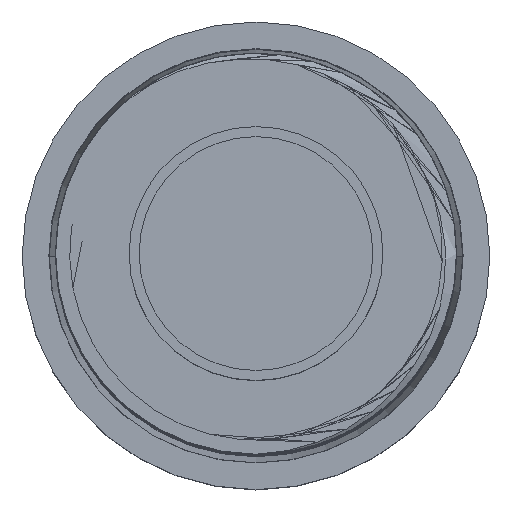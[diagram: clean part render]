
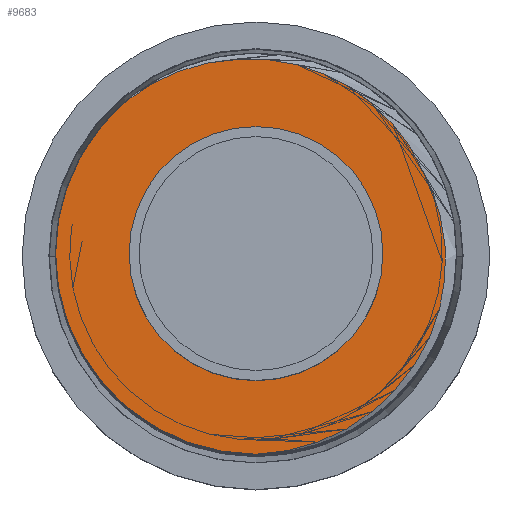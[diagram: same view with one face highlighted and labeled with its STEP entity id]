
A CAD part, top view. The second image highlights one B-rep face of the part: STEP entity #9683.
In plain terms, the highlighted planar face has unit normal (0, 0, 1).
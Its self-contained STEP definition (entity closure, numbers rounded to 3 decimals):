
#130=CARTESIAN_POINT('',(2.508,1.22,23.));
#131=CARTESIAN_POINT('',(2.421,1.419,23.));
#132=CARTESIAN_POINT('',(2.206,1.785,23.));
#133=CARTESIAN_POINT('',(1.763,2.258,23.));
#134=CARTESIAN_POINT('',(1.218,2.623,23.));
#135=CARTESIAN_POINT('',(0.608,2.856,23.));
#136=CARTESIAN_POINT('',(-0.056,2.944,23.));
#137=CARTESIAN_POINT('',(-0.716,2.882,23.));
#138=CARTESIAN_POINT('',(-1.356,2.673,23.));
#139=CARTESIAN_POINT('',(-1.747,2.438,23.));
#140=CARTESIAN_POINT('',(-1.933,2.294,23.));
#145=CARTESIAN_POINT('',(0.,0.,23.));
#146=DIRECTION('',(0.,0.,-1.));
#147=DIRECTION('',(0.,-1.,0.));
#148=AXIS2_PLACEMENT_3D('',#145,#146,#147);
#153=CARTESIAN_POINT('',(0.,0.,23.));
#154=DIRECTION('',(0.,0.,-1.));
#155=DIRECTION('',(-1.,0.,0.));
#156=AXIS2_PLACEMENT_3D('',#153,#154,#155);
#161=CARTESIAN_POINT('',(0.,0.,23.));
#162=DIRECTION('',(0.,0.,1.));
#163=DIRECTION('',(-1.,0.,0.));
#164=AXIS2_PLACEMENT_3D('',#161,#162,#163);
#169=CARTESIAN_POINT('',(0.,0.,23.));
#170=DIRECTION('',(0.,0.,1.));
#171=DIRECTION('',(1.,0.,0.));
#172=AXIS2_PLACEMENT_3D('',#169,#170,#171);
#177=CARTESIAN_POINT('',(0.,-3.,23.));
#178=CARTESIAN_POINT('',(0.226,-2.993,23.));
#179=CARTESIAN_POINT('',(0.661,-2.929,23.));
#180=CARTESIAN_POINT('',(1.28,-2.689,23.));
#181=CARTESIAN_POINT('',(1.824,-2.324,23.));
#182=CARTESIAN_POINT('',(2.288,-1.834,23.));
#183=CARTESIAN_POINT('',(2.621,-1.26,23.));
#184=CARTESIAN_POINT('',(2.813,-0.643,23.));
#185=CARTESIAN_POINT('',(2.861,0.014,23.));
#186=CARTESIAN_POINT('',(2.759,0.649,23.));
#187=CARTESIAN_POINT('',(2.607,1.035,23.));
#188=CARTESIAN_POINT('',(2.508,1.22,23.));
#5498=VERTEX_POINT('',#130);
#5499=VERTEX_POINT('',#140);
#5575=VERTEX_POINT('',#177);
#5576=CARTESIAN_POINT('',(-3.,0.,23.));
#5577=VERTEX_POINT('',#5576);
#5578=CARTESIAN_POINT('',(-1.9,0.,23.));
#5579=CARTESIAN_POINT('',(1.9,0.,23.));
#5580=VERTEX_POINT('',#5578);
#5581=VERTEX_POINT('',#5579);
#9663=CARTESIAN_POINT('',(0.,0.,23.));
#9664=DIRECTION('',(0.,0.,1.));
#9665=DIRECTION('',(1.,0.,0.));
#9666=AXIS2_PLACEMENT_3D('',#9663,#9664,#9665);
#9667=PLANE('',#9666);
#9669=ORIENTED_EDGE('',*,*,#9668,.F.);
#9671=ORIENTED_EDGE('',*,*,#9670,.T.);
#9673=ORIENTED_EDGE('',*,*,#9672,.T.);
#9674=ORIENTED_EDGE('',*,*,#9500,.F.);
#9675=EDGE_LOOP('',(#9669,#9671,#9673,#9674));
#9676=FACE_OUTER_BOUND('',#9675,.F.);
#9678=ORIENTED_EDGE('',*,*,#9677,.T.);
#9680=ORIENTED_EDGE('',*,*,#9679,.T.);
#9681=EDGE_LOOP('',(#9678,#9680));
#9682=FACE_BOUND('',#9681,.F.);
#141=B_SPLINE_CURVE_WITH_KNOTS('',3,(#130,#131,#132,#133,#134,#135,#136,#137,
#138,#139,#140),.UNSPECIFIED.,.F.,.F.,(4,1,1,1,1,1,1,1,4),(0.,0.125,0.25,
0.375,0.5,0.625,0.75,0.875,1.),.UNSPECIFIED.);
#149=CIRCLE('',#148,3.);
#157=CIRCLE('',#156,3.);
#165=CIRCLE('',#164,1.9);
#173=CIRCLE('',#172,1.9);
#189=B_SPLINE_CURVE_WITH_KNOTS('',3,(#177,#178,#179,#180,#181,#182,#183,#184,
#185,#186,#187,#188),.UNSPECIFIED.,.F.,.F.,(4,1,1,1,1,1,1,1,1,4),(0.,
0.111,0.222,0.333,0.444,
0.556,0.667,0.778,0.889,1.),
.UNSPECIFIED.);
#9500=EDGE_CURVE('',#5498,#5499,#141,.T.);
#9668=EDGE_CURVE('',#5575,#5498,#189,.T.);
#9670=EDGE_CURVE('',#5575,#5577,#149,.T.);
#9672=EDGE_CURVE('',#5577,#5499,#157,.T.);
#9677=EDGE_CURVE('',#5580,#5581,#165,.T.);
#9679=EDGE_CURVE('',#5581,#5580,#173,.T.);
#9683=ADVANCED_FACE('',(#9676,#9682),#9667,.T.);
